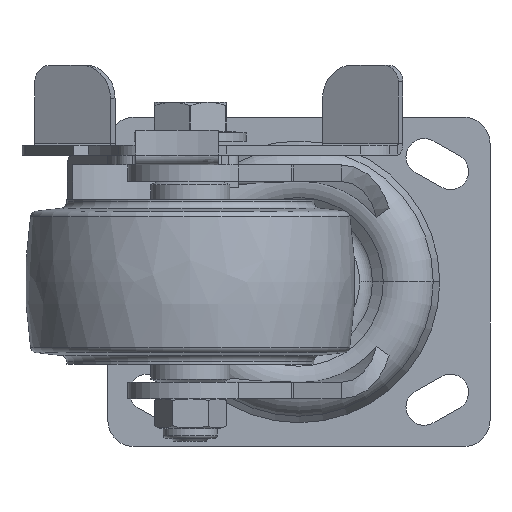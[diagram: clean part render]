
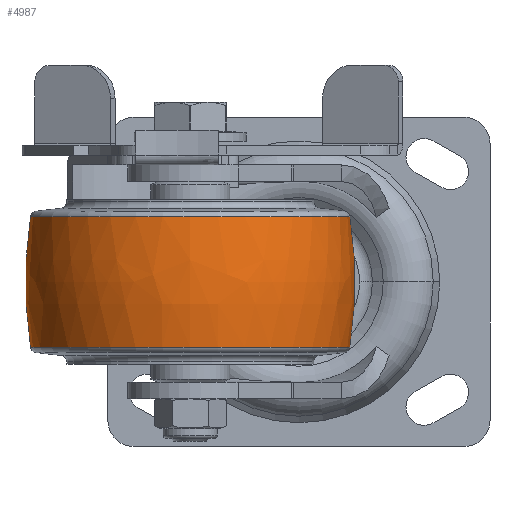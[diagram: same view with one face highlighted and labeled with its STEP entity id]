
A CAD part, front view. The second image highlights one B-rep face of the part: STEP entity #4987.
In plain terms, the highlighted free-form (B-spline) face has degree [3, 3] with [7, 4] control points.
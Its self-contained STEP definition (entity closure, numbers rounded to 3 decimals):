
#4401=CARTESIAN_POINT('',(0.,-76.741,0.));
#4402=DIRECTION('',(0.,0.,1.));
#4403=DIRECTION('',(0.156,0.988,0.));
#4404=AXIS2_PLACEMENT_3D('',#4401,#4402,#4403);
#4406=CARTESIAN_POINT('',(0.,76.741,0.));
#4407=DIRECTION('',(0.,0.,-1.));
#4408=DIRECTION('',(0.156,-0.988,0.));
#4409=AXIS2_PLACEMENT_3D('',#4406,#4407,#4408);
#4411=CARTESIAN_POINT('',(19.804,0.,0.));
#4412=DIRECTION('',(-1.,0.,0.));
#4413=DIRECTION('',(0.,1.,0.));
#4414=AXIS2_PLACEMENT_3D('',#4411,#4412,#4413);
#4426=CARTESIAN_POINT('',(-19.804,0.,0.));
#4427=DIRECTION('',(-1.,0.,0.));
#4428=DIRECTION('',(0.,1.,0.));
#4429=AXIS2_PLACEMENT_3D('',#4426,#4427,#4428);
#4578=CARTESIAN_POINT('',(19.804,48.443,0.));
#4579=VERTEX_POINT('',#4578);
#4580=CARTESIAN_POINT('',(-19.804,48.443,0.));
#4581=VERTEX_POINT('',#4580);
#4618=CARTESIAN_POINT('',(19.804,-48.443,
0.));
#4619=VERTEX_POINT('',#4618);
#4620=CARTESIAN_POINT('',(-19.804,-48.443,
0.));
#4621=VERTEX_POINT('',#4620);
#4951=CARTESIAN_POINT('',(-20.589,-48.221,
3.034));
#4952=CARTESIAN_POINT('',(-6.924,-50.466,
3.175));
#4953=CARTESIAN_POINT('',(6.924,-50.466,3.175));
#4954=CARTESIAN_POINT('',(20.589,-48.221,3.034));
#4955=CARTESIAN_POINT('',(-20.589,-50.088,
-26.641));
#4956=CARTESIAN_POINT('',(-6.924,-52.42,
-27.882));
#4957=CARTESIAN_POINT('',(6.924,-52.42,
-27.882));
#4958=CARTESIAN_POINT('',(20.589,-50.088,
-26.641));
#4959=CARTESIAN_POINT('',(-20.589,-29.734,
-48.316));
#4960=CARTESIAN_POINT('',(-6.924,-31.118,
-50.566));
#4961=CARTESIAN_POINT('',(6.924,-31.118,
-50.566));
#4962=CARTESIAN_POINT('',(20.589,-29.734,
-48.316));
#4963=CARTESIAN_POINT('',(-20.589,0.,
-48.316));
#4964=CARTESIAN_POINT('',(-6.924,0.,
-50.566));
#4965=CARTESIAN_POINT('',(6.924,0.,
-50.566));
#4966=CARTESIAN_POINT('',(20.589,0.,
-48.316));
#4967=CARTESIAN_POINT('',(-20.589,29.734,
-48.316));
#4968=CARTESIAN_POINT('',(-6.924,31.118,
-50.566));
#4969=CARTESIAN_POINT('',(6.924,31.118,-50.566));
#4970=CARTESIAN_POINT('',(20.589,29.734,-48.316));
#4971=CARTESIAN_POINT('',(-20.589,50.088,
-26.641));
#4972=CARTESIAN_POINT('',(-6.924,52.42,
-27.882));
#4973=CARTESIAN_POINT('',(6.924,52.42,-27.882));
#4974=CARTESIAN_POINT('',(20.589,50.088,-26.641));
#4975=CARTESIAN_POINT('',(-20.589,48.221,3.034));
#4976=CARTESIAN_POINT('',(-6.924,50.466,3.175));
#4977=CARTESIAN_POINT('',(6.924,50.466,3.175));
#4978=CARTESIAN_POINT('',(20.589,48.221,3.034));
#4979=(BOUNDED_SURFACE()B_SPLINE_SURFACE(3,3,((#4951,#4952,#4953,#4954),(#4955,
#4956,#4957,#4958),(#4959,#4960,#4961,#4962),(#4963,#4964,#4965,#4966),(#4967,
#4968,#4969,#4970),(#4971,#4972,#4973,#4974),(#4975,#4976,#4977,#4978)),
.UNSPECIFIED.,.F.,.F.,.F.)B_SPLINE_SURFACE_WITH_KNOTS((4,3,4),(4,4),(0.,1.,
2.),(0.,1.),.UNSPECIFIED.)GEOMETRIC_REPRESENTATION_ITEM()RATIONAL_B_SPLINE_SURFACE(((1.195,1.185,1.185,1.195),(
0.944,0.935,0.935,0.944),(
0.944,0.935,0.935,0.944),(
1.195,1.185,1.185,1.195),(
0.944,0.935,0.935,0.944),(
0.944,0.935,0.935,0.944),(
1.195,1.185,1.185,1.195)))REPRESENTATION_ITEM('')SURFACE());
#4980=ORIENTED_EDGE('',*,*,#4941,.T.);
#4982=ORIENTED_EDGE('',*,*,#4981,.T.);
#4983=ORIENTED_EDGE('',*,*,#4944,.F.);
#4984=ORIENTED_EDGE('',*,*,#4891,.F.);
#4985=EDGE_LOOP('',(#4980,#4982,#4983,#4984));
#4986=FACE_OUTER_BOUND('',#4985,.F.);
#4405=CIRCLE('',#4404,126.741);
#4410=CIRCLE('',#4409,126.741);
#4415=CIRCLE('',#4414,48.443);
#4430=CIRCLE('',#4429,48.443);
#4891=EDGE_CURVE('',#4579,#4619,#4415,.T.);
#4941=EDGE_CURVE('',#4579,#4581,#4405,.T.);
#4944=EDGE_CURVE('',#4619,#4621,#4410,.T.);
#4981=EDGE_CURVE('',#4581,#4621,#4430,.T.);
#4987=ADVANCED_FACE('',(#4986),#4979,.T.);
